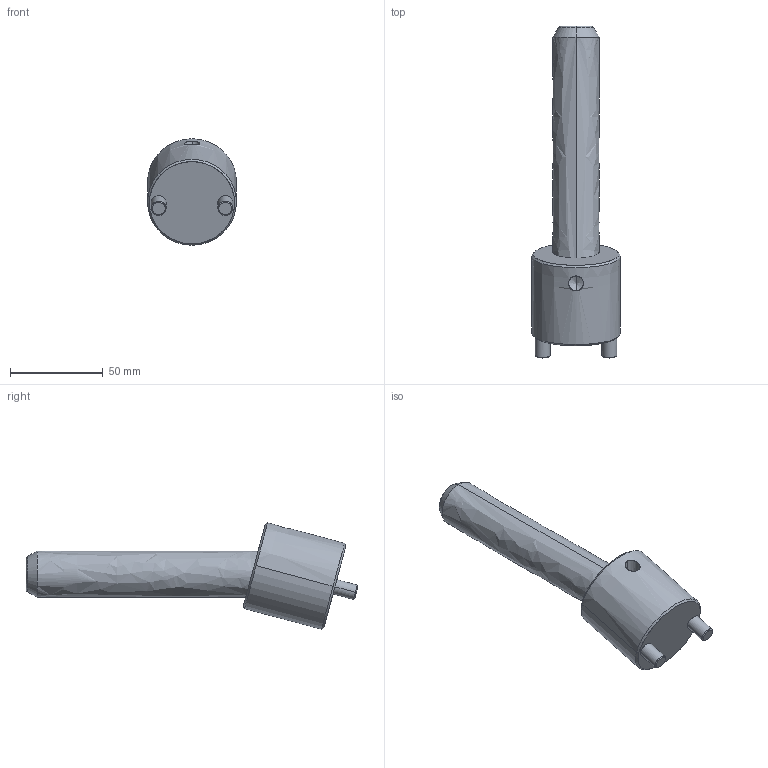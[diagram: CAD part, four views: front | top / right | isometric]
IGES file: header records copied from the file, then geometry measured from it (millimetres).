
Start section: START RECORD GO HERE.
Global section: file name: CI1525125.igs; native system: DASSAULT SYSTEMES CATIA V5 R20 - www.3ds.com; preprocessor: CATIA Version 5 Release 20 ; author: r.borello; organization: CFTORINO; date: 20190621.161756; units: millimetre
Bounding box: 48 x 179.26 x 57.49 mm (x, y, z)
Surface area: 27384.7 mm2 (no closed solid volume)
Topology: 0 solids, 0 shells, 39 faces, 162 edges, 160 vertices
Faces by surface type: revolution 32, plane 7
